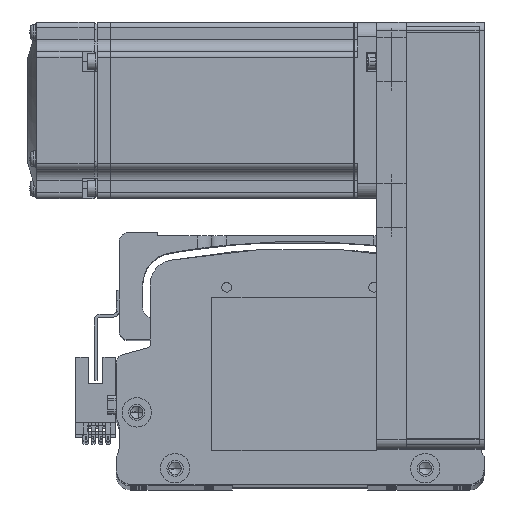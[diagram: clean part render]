
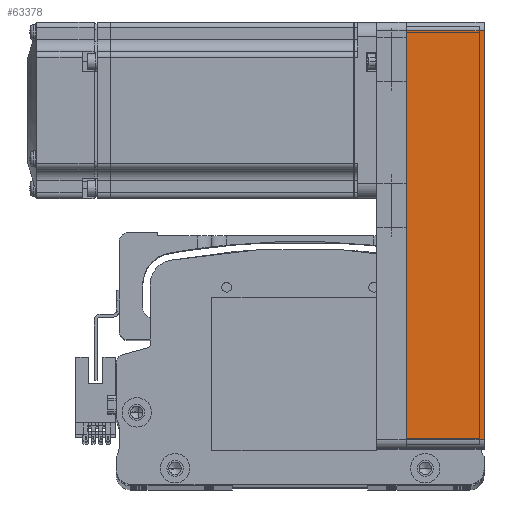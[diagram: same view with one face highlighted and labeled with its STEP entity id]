
A CAD part, top view. The second image highlights one B-rep face of the part: STEP entity #63378.
In plain terms, the highlighted planar face has unit normal (0, 0, 1) as drawn and (0, 1, 0) by its records, which use the part's own axes.
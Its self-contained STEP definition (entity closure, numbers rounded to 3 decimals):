
#3269 = DIRECTION ( 'NONE',  ( 0., 0., 1. ) ) ;
#3935 = VERTEX_POINT ( 'NONE', #48513 ) ;
#16260 = AXIS2_PLACEMENT_3D ( 'NONE', #31393, #76130, #37836 ) ;
#18777 = DIRECTION ( 'NONE',  ( 0., 0., -1. ) ) ;
#20053 = VECTOR ( 'NONE', #42560, 1000. ) ;
#22080 = LINE ( 'NONE', #36117, #20053 ) ;
#24925 = CARTESIAN_POINT ( 'NONE',  ( 69.5, 30., 26.5 ) ) ;
#26271 = VECTOR ( 'NONE', #18777, 1000. ) ;
#27510 = EDGE_CURVE ( 'NONE', #48918, #79394, #53903, .T. ) ;
#30503 = CARTESIAN_POINT ( 'NONE',  ( 72.5, 30., 0. ) ) ;
#31368 = EDGE_CURVE ( 'NONE', #42295, #3935, #68285, .T. ) ;
#31393 = CARTESIAN_POINT ( 'NONE',  ( 72.5, 30., 26.5 ) ) ;
#31795 = ORIENTED_EDGE ( 'NONE', *, *, #27510, .T. ) ;
#36117 = CARTESIAN_POINT ( 'NONE',  ( 72.5, 30., 26.5 ) ) ;
#37292 = PLANE ( 'NONE',  #16260 ) ;
#37514 = ORIENTED_EDGE ( 'NONE', *, *, #31368, .T. ) ;
#37836 = DIRECTION ( 'NONE',  ( 1., 0., 0. ) ) ;
#38208 = ORIENTED_EDGE ( 'NONE', *, *, #48701, .T. ) ;
#40249 = LINE ( 'NONE', #30503, #72213 ) ;
#42295 = VERTEX_POINT ( 'NONE', #66691 ) ;
#42560 = DIRECTION ( 'NONE',  ( -1., 0., 0. ) ) ;
#48513 = CARTESIAN_POINT ( 'NONE',  ( 69.5, 30., 0. ) ) ;
#48701 = EDGE_CURVE ( 'NONE', #3935, #48918, #40249, .T. ) ;
#48918 = VERTEX_POINT ( 'NONE', #77413 ) ;
#51477 = EDGE_CURVE ( 'NONE', #42295, #79394, #22080, .T. ) ;
#53903 = LINE ( 'NONE', #73736, #79770 ) ;
#62697 = FACE_OUTER_BOUND ( 'NONE', #71528, .T. ) ;
#63378 = ADVANCED_FACE ( 'NONE', ( #62697 ), #37292, .F. ) ;
#63700 = CARTESIAN_POINT ( 'NONE',  ( -69.5, 30., 26.5 ) ) ;
#66691 = CARTESIAN_POINT ( 'NONE',  ( 69.5, 30., 26.5 ) ) ;
#68285 = LINE ( 'NONE', #24925, #26271 ) ;
#68803 = ORIENTED_EDGE ( 'NONE', *, *, #51477, .F. ) ;
#71528 = EDGE_LOOP ( 'NONE', ( #38208, #31795, #68803, #37514 ) ) ;
#72213 = VECTOR ( 'NONE', #75254, 1000. ) ;
#73736 = CARTESIAN_POINT ( 'NONE',  ( -69.5, 30., 26.5 ) ) ;
#75254 = DIRECTION ( 'NONE',  ( -1., 0., 0. ) ) ;
#76130 = DIRECTION ( 'NONE',  ( 0., -1., 0. ) ) ;
#77413 = CARTESIAN_POINT ( 'NONE',  ( -69.5, 30., 0. ) ) ;
#79394 = VERTEX_POINT ( 'NONE', #63700 ) ;
#79770 = VECTOR ( 'NONE', #3269, 1000. ) ;
